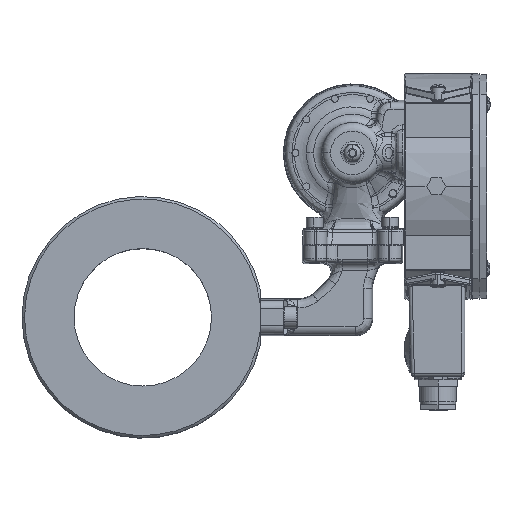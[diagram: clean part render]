
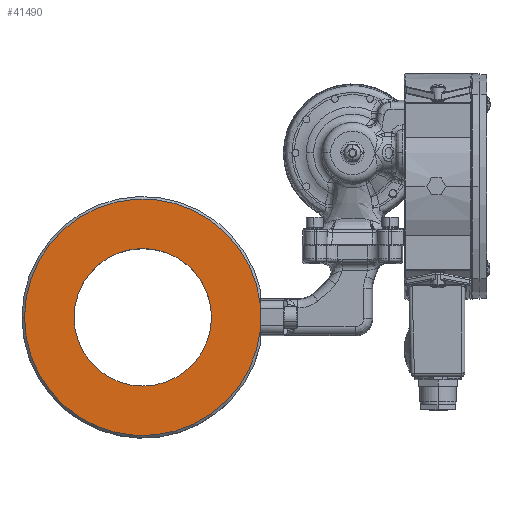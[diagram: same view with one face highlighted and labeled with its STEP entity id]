
A CAD part, top view. The second image highlights one B-rep face of the part: STEP entity #41490.
In plain terms, the highlighted planar face has unit normal (0, 0, 1).
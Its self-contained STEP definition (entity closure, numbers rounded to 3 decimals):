
#713 = CARTESIAN_POINT ( 'NONE',  ( -166.19, -67.693, 57.468 ) ) ;
#4764 = AXIS2_PLACEMENT_3D ( 'NONE', #41048, #40867, #40610 ) ;
#5636 = AXIS2_PLACEMENT_3D ( 'NONE', #42155, #42138, #42025 ) ;
#9781 = ORIENTED_EDGE ( 'NONE', *, *, #96268, .F. ) ;
#10218 = LINE ( 'NONE', #41119, #52319 ) ;
#11294 = EDGE_CURVE ( 'NONE', #11573, #58253, #60941, .T. ) ;
#11573 = VERTEX_POINT ( 'NONE', #23243 ) ;
#14122 = FACE_OUTER_BOUND ( 'NONE', #51144, .T. ) ;
#16774 = EDGE_CURVE ( 'NONE', #37502, #44813, #99407, .T. ) ;
#17969 = DIRECTION ( 'NONE',  ( 0., 0., -1. ) ) ;
#22055 = CARTESIAN_POINT ( 'NONE',  ( -118.823, -67.693, 57.468 ) ) ;
#22366 = EDGE_LOOP ( 'NONE', ( #40444, #52620 ) ) ;
#23243 = CARTESIAN_POINT ( 'NONE',  ( -195.69, -67.693, 57.468 ) ) ;
#29689 = CARTESIAN_POINT ( 'NONE',  ( -55.19, -59.312, 57.468 ) ) ;
#33994 = DIRECTION ( 'NONE',  ( 0., 0., -1. ) ) ;
#36339 = AXIS2_PLACEMENT_3D ( 'NONE', #80904, #33994, #88643 ) ;
#37502 = VERTEX_POINT ( 'NONE', #91244 ) ;
#40444 = ORIENTED_EDGE ( 'NONE', *, *, #79290, .T. ) ;
#40610 = DIRECTION ( 'NONE',  ( -1., 0., 0. ) ) ;
#40867 = DIRECTION ( 'NONE',  ( 0., 0., -1. ) ) ;
#41048 = CARTESIAN_POINT ( 'NONE',  ( -125.19, -67.693, 57.468 ) ) ;
#41119 = CARTESIAN_POINT ( 'NONE',  ( -55.19, -67.693, 57.468 ) ) ;
#41490 = ADVANCED_FACE ( 'NONE', ( #95057, #14122 ), #85431, .T. ) ;
#42025 = DIRECTION ( 'NONE',  ( -1., 0., 0. ) ) ;
#42138 = DIRECTION ( 'NONE',  ( 0., 0., -1. ) ) ;
#42155 = CARTESIAN_POINT ( 'NONE',  ( -125.19, -67.693, 57.468 ) ) ;
#42928 = CARTESIAN_POINT ( 'NONE',  ( -55.19, -76.075, 57.468 ) ) ;
#43142 = EDGE_CURVE ( 'NONE', #58253, #96752, #10218, .T. ) ;
#44813 = VERTEX_POINT ( 'NONE', #713 ) ;
#46452 = DIRECTION ( 'NONE',  ( 0., 0., 1. ) ) ;
#46925 = AXIS2_PLACEMENT_3D ( 'NONE', #65143, #17969, #73024 ) ;
#51144 = EDGE_LOOP ( 'NONE', ( #9781, #69410, #99521 ) ) ;
#52319 = VECTOR ( 'NONE', #95670, 1000. ) ;
#52620 = ORIENTED_EDGE ( 'NONE', *, *, #16774, .T. ) ;
#58253 = VERTEX_POINT ( 'NONE', #29689 ) ;
#60941 = CIRCLE ( 'NONE', #4764, 70.5 ) ;
#65143 = CARTESIAN_POINT ( 'NONE',  ( -125.19, -67.693, 57.468 ) ) ;
#66303 = CIRCLE ( 'NONE', #36339, 41. ) ;
#69410 = ORIENTED_EDGE ( 'NONE', *, *, #43142, .F. ) ;
#73024 = DIRECTION ( 'NONE',  ( -1., 0., 0. ) ) ;
#79290 = EDGE_CURVE ( 'NONE', #44813, #37502, #66303, .T. ) ;
#79571 = CIRCLE ( 'NONE', #46925, 70.5 ) ;
#80904 = CARTESIAN_POINT ( 'NONE',  ( -125.19, -67.693, 57.468 ) ) ;
#85431 = PLANE ( 'NONE',  #100139 ) ;
#88643 = DIRECTION ( 'NONE',  ( -1., 0., 0. ) ) ;
#91244 = CARTESIAN_POINT ( 'NONE',  ( -84.19, -67.693, 57.468 ) ) ;
#95057 = FACE_BOUND ( 'NONE', #22366, .T. ) ;
#95670 = DIRECTION ( 'NONE',  ( 0., -1., 0. ) ) ;
#96268 = EDGE_CURVE ( 'NONE', #96752, #11573, #79571, .T. ) ;
#96752 = VERTEX_POINT ( 'NONE', #42928 ) ;
#99407 = CIRCLE ( 'NONE', #5636, 41. ) ;
#99521 = ORIENTED_EDGE ( 'NONE', *, *, #11294, .F. ) ;
#100139 = AXIS2_PLACEMENT_3D ( 'NONE', #22055, #46452, #100930 ) ;
#100930 = DIRECTION ( 'NONE',  ( 0., -1., 0. ) ) ;
